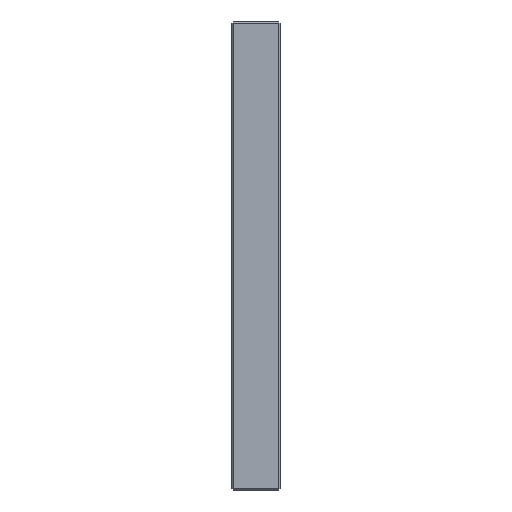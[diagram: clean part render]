
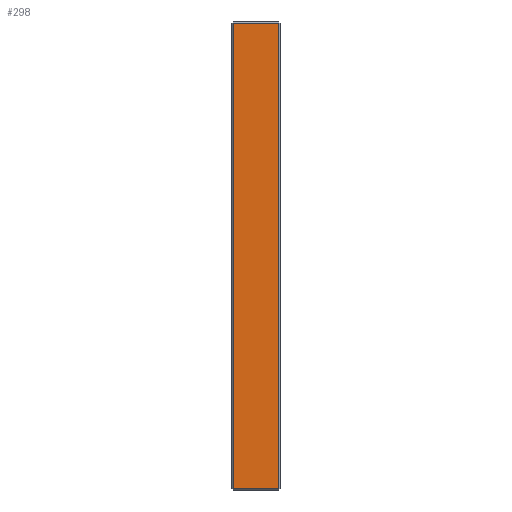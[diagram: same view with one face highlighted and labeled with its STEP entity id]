
A CAD part, left-side view. The second image highlights one B-rep face of the part: STEP entity #298.
In plain terms, the highlighted planar face has unit normal (-1, 0, 0).
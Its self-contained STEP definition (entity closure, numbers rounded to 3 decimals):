
#128 = CARTESIAN_POINT ( 'NONE',  ( -198., 35., -172. ) ) ;
#195 = VECTOR ( 'NONE', #584, 1000. ) ;
#251 = ORIENTED_EDGE ( 'NONE', *, *, #1755, .T. ) ;
#291 = VERTEX_POINT ( 'NONE', #1223 ) ;
#298 = ADVANCED_FACE ( 'NONE', ( #332 ), #652, .F. ) ;
#332 = FACE_OUTER_BOUND ( 'NONE', #739, .T. ) ;
#401 = VECTOR ( 'NONE', #826, 1000. ) ;
#415 = EDGE_CURVE ( 'NONE', #1142, #648, #2257, .T. ) ;
#537 = AXIS2_PLACEMENT_3D ( 'NONE', #1020, #632, #623 ) ;
#559 = VERTEX_POINT ( 'NONE', #1131 ) ;
#584 = DIRECTION ( 'NONE',  ( 0., 0., 1. ) ) ;
#591 = ORIENTED_EDGE ( 'NONE', *, *, #415, .T. ) ;
#623 = DIRECTION ( 'NONE',  ( 0., 0., -1. ) ) ;
#632 = DIRECTION ( 'NONE',  ( 1., 0., 0. ) ) ;
#648 = VERTEX_POINT ( 'NONE', #1902 ) ;
#652 = PLANE ( 'NONE',  #537 ) ;
#728 = LINE ( 'NONE', #1330, #195 ) ;
#732 = VECTOR ( 'NONE', #1466, 1000. ) ;
#739 = EDGE_LOOP ( 'NONE', ( #591, #852, #1036, #251 ) ) ;
#807 = CARTESIAN_POINT ( 'NONE',  ( -198., 36., -172. ) ) ;
#826 = DIRECTION ( 'NONE',  ( 0., -1., 0. ) ) ;
#852 = ORIENTED_EDGE ( 'NONE', *, *, #2307, .T. ) ;
#934 = CARTESIAN_POINT ( 'NONE',  ( -198., 35., -173. ) ) ;
#1005 = VECTOR ( 'NONE', #2053, 1000. ) ;
#1020 = CARTESIAN_POINT ( 'NONE',  ( -198., 36., 173. ) ) ;
#1036 = ORIENTED_EDGE ( 'NONE', *, *, #1477, .T. ) ;
#1131 = CARTESIAN_POINT ( 'NONE',  ( -198., 35., 172. ) ) ;
#1142 = VERTEX_POINT ( 'NONE', #128 ) ;
#1223 = CARTESIAN_POINT ( 'NONE',  ( -198., 1., 172. ) ) ;
#1330 = CARTESIAN_POINT ( 'NONE',  ( -198., 1., 173. ) ) ;
#1466 = DIRECTION ( 'NONE',  ( 0., 0., -1. ) ) ;
#1477 = EDGE_CURVE ( 'NONE', #291, #559, #1953, .T. ) ;
#1716 = CARTESIAN_POINT ( 'NONE',  ( -198., 36., 172. ) ) ;
#1755 = EDGE_CURVE ( 'NONE', #559, #1142, #2146, .T. ) ;
#1902 = CARTESIAN_POINT ( 'NONE',  ( -198., 1., -172. ) ) ;
#1953 = LINE ( 'NONE', #1716, #1005 ) ;
#2053 = DIRECTION ( 'NONE',  ( 0., 1., 0. ) ) ;
#2146 = LINE ( 'NONE', #934, #732 ) ;
#2257 = LINE ( 'NONE', #807, #401 ) ;
#2307 = EDGE_CURVE ( 'NONE', #648, #291, #728, .T. ) ;
